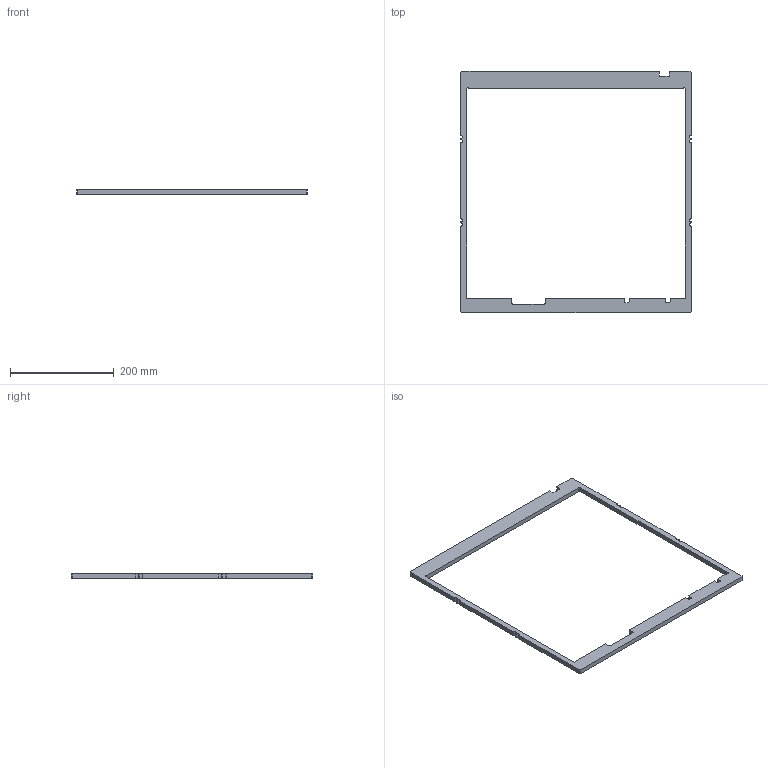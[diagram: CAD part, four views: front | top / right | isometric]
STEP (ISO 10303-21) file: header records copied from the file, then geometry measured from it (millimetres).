
FILE_DESCRIPTION (( 'STEP AP203' ), '1' );
FILE_NAME ('婕昈.741218.020_3D.STEP', '2024-02-05T15:42:36', ( '' ), ( '' ), 'SwSTEP 2.0', 'SolidWorks 2022', '' );
FILE_SCHEMA (( 'CONFIG_CONTROL_DESIGN' ));
Length unit declared in the file: millimetre
Products named in the file (1): 婕昈.741218.020_3D
Bounding box: 443 x 465 x 9 mm (x, y, z)
Volume: 315937.4 mm3; surface area: 102224.9 mm2
Topology: 1 solids, 1 shells, 62 faces, 180 edges, 120 vertices
Faces by surface type: plane 38, cylinder 24
Entity records: 2133 total; most frequent: CARTESIAN_POINT 363, ORIENTED_EDGE 360, DIRECTION 354, EDGE_CURVE 180, VECTOR 132, LINE 132, VERTEX_POINT 120, AXIS2_PLACEMENT_3D 111
